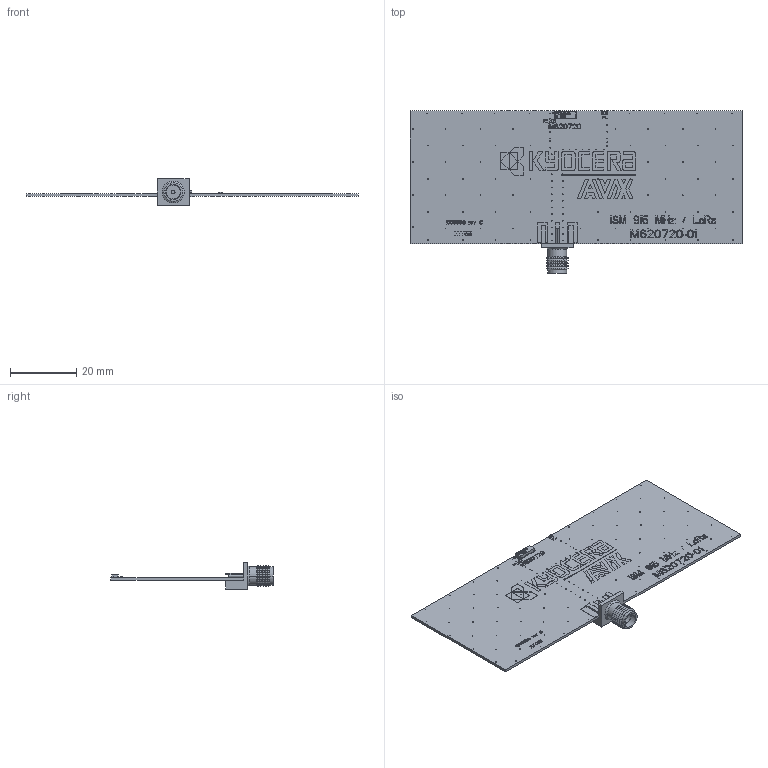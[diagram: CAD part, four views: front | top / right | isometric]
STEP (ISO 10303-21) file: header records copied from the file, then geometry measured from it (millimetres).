
FILE_DESCRIPTION((''),'2;1');
FILE_NAME('M620720-01_ASM','2024-09-06T00:43:20',('fsanchez'),(''),'CREO PARAMETRIC BY PTC INC, 2024153','CREO PARAMETRIC BY PTC INC, 2024153','');
FILE_SCHEMA(('CONFIG_CONTROL_DESIGN','GEOMETRIC_VALIDATION_PROPERTIES_MIM'));
Products named in the file (5): 1005598; M620720_ANTENNA; 0402; 1005332-REFERENCE-ONLY; M620720-01_ASM
Assembly tree (5 placements, depth 2):
  M620720-01_ASM
    1005598
    M620720_ANTENNA
    0402  x2
    1005332-REFERENCE-ONLY
Bounding box: 100 x 48.89 x 7.92 mm (x, y, z)
Volume: 3466 mm3; surface area: 8999 mm2
Topology: 5 solids, 5 shells, 2564 faces, 7163 edges, 4744 vertices
Faces by surface type: plane 2169, cylinder 367, cone 28
Entity records: 83376 total; most frequent: CARTESIAN_POINT 14419, ORIENTED_EDGE 14254, DIRECTION 12991, EDGE_CURVE 7127, VECTOR 6379, LINE 6379, VERTEX_POINT 4720, AXIS2_PLACEMENT_3D 3306
